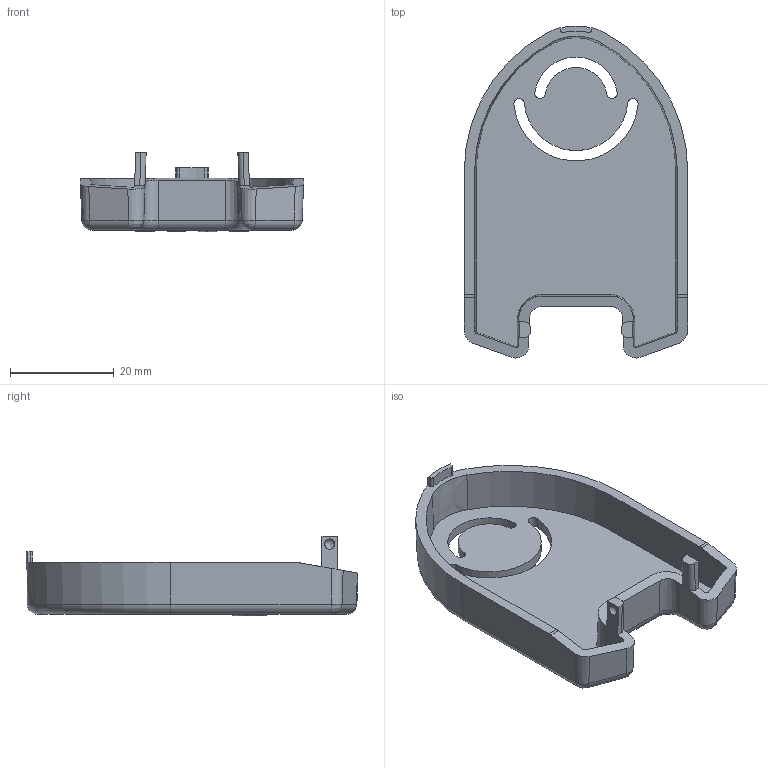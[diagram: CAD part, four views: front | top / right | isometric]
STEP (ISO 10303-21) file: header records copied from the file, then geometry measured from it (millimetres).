
FILE_DESCRIPTION(/* description */ (''),/* implementation_level */ '2;1');
FILE_NAME(/* name */ 'E:\塑料模具\现代模具制造技术\切药盒\切药盒上盖.stp',/* time_stamp */ '2021-12-02T16:04:12+08:00',/* author */ ('Administrator'),/* organization */ (''),/* preprocessor_version */ 'ST-DEVELOPER v18',/* originating_system */ 'Autodesk Inventor 2020',/* authorisation */ '');
FILE_SCHEMA (('AUTOMOTIVE_DESIGN { 1 0 10303 214 3 1 1 }'));
Length unit declared in the file: millimetre
Products named in the file (1): 上盖
Bounding box: 43 x 63.88 x 15.3 mm (x, y, z)
Volume: 7039.2 mm3; surface area: 7743.3 mm2
Topology: 1 solids, 1 shells, 103 faces, 269 edges, 174 vertices
Faces by surface type: cylinder 31, plane 30, cone 18, sphere 9, torus 8, bspline 7
Entity records: 3659 total; most frequent: CARTESIAN_POINT 985, DIRECTION 591, ORIENTED_EDGE 538, EDGE_CURVE 269, AXIS2_PLACEMENT_3D 229, VERTEX_POINT 174, LINE 133, VECTOR 133
